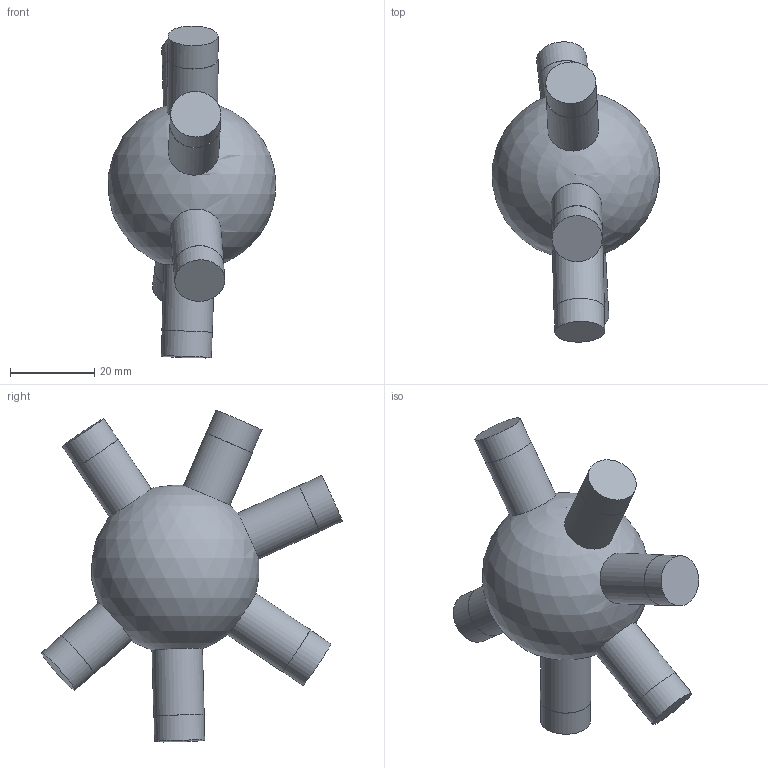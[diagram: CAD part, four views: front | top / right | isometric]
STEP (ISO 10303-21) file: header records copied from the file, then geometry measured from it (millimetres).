
FILE_DESCRIPTION(('Open CASCADE Model'),'2;1');
FILE_NAME('Open CASCADE Shape Model','2026-10-21T12:47:57',('Author'),( 'Open CASCADE'),'Open CASCADE STEP processor 7.9','Open CASCADE 7.9' ,'Unknown');
FILE_SCHEMA(('AUTOMOTIVE_DESIGN { 1 0 10303 214 1 1 1 1 }'));
Length unit declared in the file: millimetre
Products named in the file (1): Open CASCADE STEP translator 7.9 106
Bounding box: 39.8 x 71.42 x 78.9 mm (x, y, z)
Volume: 47023.6 mm3; surface area: 9631.2 mm2
Topology: 1 solids, 1 shells, 25 faces, 39 edges, 26 vertices
Faces by surface type: cylinder 12, plane 12, sphere 1
Full cylindrical faces by diameter (mm): 11.9 x6, 12 x6
Entity records: 1495 total; most frequent: CARTESIAN_POINT 597, DIRECTION 185, ORIENTED_EDGE 76, PCURVE 76, DEFINITIONAL_REPRESENTATION 76, LINE 63, VECTOR 63, AXIS2_PLACEMENT_3D 52
